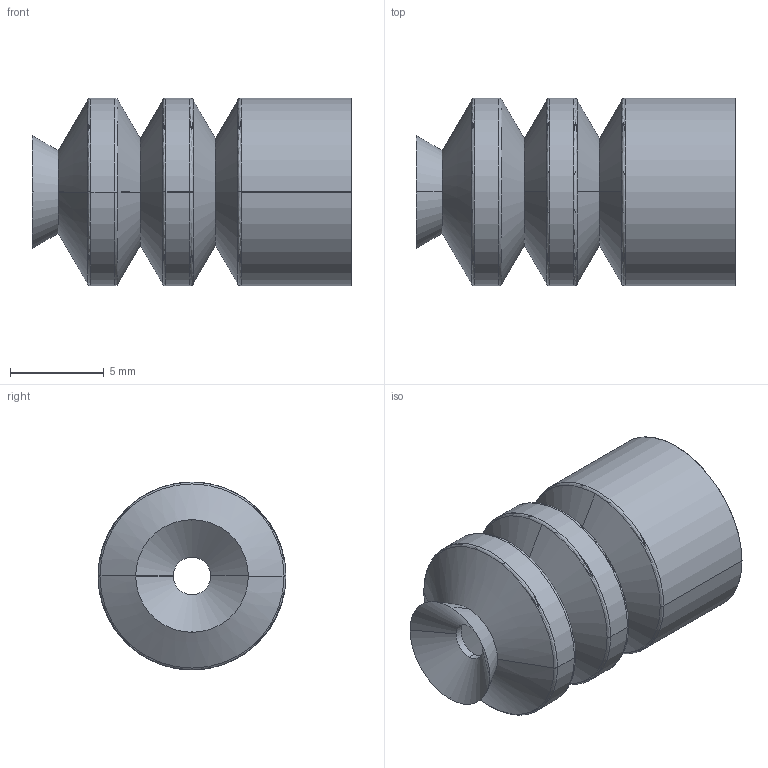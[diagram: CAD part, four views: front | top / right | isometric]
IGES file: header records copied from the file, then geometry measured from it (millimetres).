
Start section: SolidWorks IGES file using analytic representation for surfaces
Global section: file name: C:\Documents and Settings\CAD53\デスクトップ\パット変更\196403.IGS; native system: SolidWorks 2006 by SolidWorks Corporation; preprocessor: SolidWorks 2006 by SolidWorks Corporation; author: CAD53; date: 071220.165409; units: millimetre
Bounding box: 17 x 10 x 10 mm (x, y, z)
Surface area: 1138.5 mm2 (no closed solid volume)
Topology: 0 solids, 0 shells, 59 faces, 464 edges, 464 vertices
Faces by surface type: revolution 46, bspline 13
